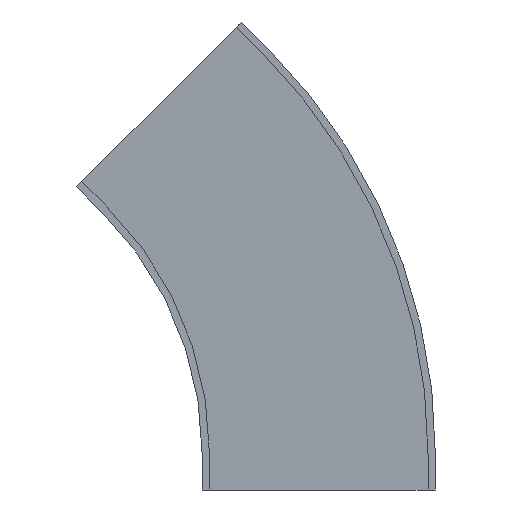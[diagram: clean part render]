
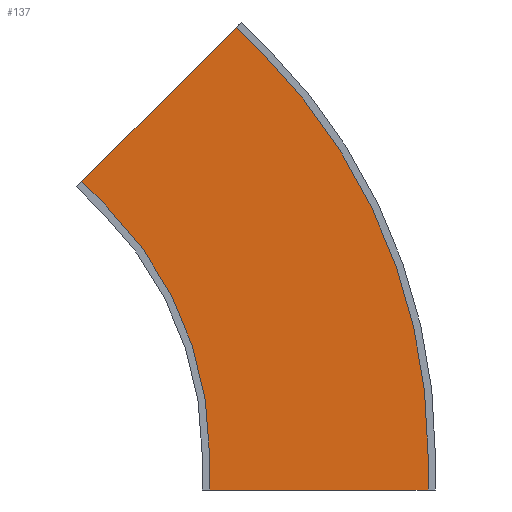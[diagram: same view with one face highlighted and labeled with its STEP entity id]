
A CAD part, front view. The second image highlights one B-rep face of the part: STEP entity #137.
In plain terms, the highlighted planar face has unit normal (0, -1, 0).
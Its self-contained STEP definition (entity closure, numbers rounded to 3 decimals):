
#22 = ORIENTED_EDGE ( 'NONE', *, *, #1498, .T. ) ;
#23 = ORIENTED_EDGE ( 'NONE', *, *, #1499, .F. ) ;
#25 = ORIENTED_EDGE ( 'NONE', *, *, #1500, .F. ) ;
#26 = ORIENTED_EDGE ( 'NONE', *, *, #1501, .F. ) ;
#44 = VERTEX_POINT ( 'NONE', #740 ) ;
#51 = VERTEX_POINT ( 'NONE', #747 ) ;
#54 = VERTEX_POINT ( 'NONE', #750 ) ;
#55 = VERTEX_POINT ( 'NONE', #751 ) ;
#56 = VERTEX_POINT ( 'NONE', #752 ) ;
#57 = VERTEX_POINT ( 'NONE', #753 ) ;
#58 = VERTEX_POINT ( 'NONE', #754 ) ;
#61 = VERTEX_POINT ( 'NONE', #757 ) ;
#137 = ADVANCED_FACE ( 'NONE', ( #1648 ), #926, .F. ) ;
#279 = DIRECTION ( 'NONE',  ( 0., 0., 1. ) ) ;
#281 = CARTESIAN_POINT ( 'NONE',  ( 1584.8, -68., -100. ) ) ;
#282 = CARTESIAN_POINT ( 'NONE',  ( 618.86, -68., 760.281 ) ) ;
#283 = CARTESIAN_POINT ( 'NONE',  ( 0., -68., -100. ) ) ;
#288 = DIRECTION ( 'NONE',  ( -1., 0., 0. ) ) ;
#289 = CARTESIAN_POINT ( 'NONE',  ( 975.2, -68., -100. ) ) ;
#291 = DIRECTION ( 'NONE',  ( 0., 0., 1. ) ) ;
#292 = DIRECTION ( 'NONE',  ( 0.707, 0., -0.707 ) ) ;
#293 = CARTESIAN_POINT ( 'NONE',  ( -70.711, -68., 70.711 ) ) ;
#294 = DIRECTION ( 'NONE',  ( 0.707, 0., 0.707 ) ) ;
#295 = CARTESIAN_POINT ( 'NONE',  ( 1049.912, -68., 1191.334 ) ) ;
#296 = DIRECTION ( 'NONE',  ( 0.707, 0., -0.707 ) ) ;
#298 = CARTESIAN_POINT ( 'NONE',  ( 0., -68., 0. ) ) ;
#299 = DIRECTION ( 'NONE',  ( 0., 1., 0. ) ) ;
#300 = DIRECTION ( 'NONE',  ( -1., 0., 0. ) ) ;
#306 = CARTESIAN_POINT ( 'NONE',  ( 0., -68., 0. ) ) ;
#307 = DIRECTION ( 'NONE',  ( 0., 1., 0. ) ) ;
#308 = DIRECTION ( 'NONE',  ( -1., 0., 0. ) ) ;
#663 = LINE ( 'NONE', #283, #669 ) ;
#665 = LINE ( 'NONE', #281, #667 ) ;
#666 = LINE ( 'NONE', #282, #673 ) ;
#667 = VECTOR ( 'NONE', #279, 1000. ) ;
#668 = LINE ( 'NONE', #289, #671 ) ;
#669 = VECTOR ( 'NONE', #288, 1000. ) ;
#670 = CIRCLE ( 'NONE', #1902, 975.2 ) ;
#671 = VECTOR ( 'NONE', #291, 1000. ) ;
#672 = LINE ( 'NONE', #293, #675 ) ;
#673 = VECTOR ( 'NONE', #292, 1000. ) ;
#674 = LINE ( 'NONE', #295, #677 ) ;
#675 = VECTOR ( 'NONE', #294, 1000. ) ;
#676 = CIRCLE ( 'NONE', #1901, 1584.8 ) ;
#677 = VECTOR ( 'NONE', #296, 1000. ) ;
#740 = CARTESIAN_POINT ( 'NONE',  ( 1584.8, -68., 0. ) ) ;
#747 = CARTESIAN_POINT ( 'NONE',  ( 689.571, -68., 689.571 ) ) ;
#750 = CARTESIAN_POINT ( 'NONE',  ( 975.2, -68., 0. ) ) ;
#751 = CARTESIAN_POINT ( 'NONE',  ( 975.2, -68., -100. ) ) ;
#752 = CARTESIAN_POINT ( 'NONE',  ( 1049.912, -68., 1191.334 ) ) ;
#753 = CARTESIAN_POINT ( 'NONE',  ( 1120.623, -68., 1120.623 ) ) ;
#754 = CARTESIAN_POINT ( 'NONE',  ( 618.86, -68., 760.281 ) ) ;
#757 = CARTESIAN_POINT ( 'NONE',  ( 1584.8, -68., -100. ) ) ;
#926 = PLANE ( 'NONE',  #1853 ) ;
#927 = CARTESIAN_POINT ( 'NONE',  ( 689.571, -68., 689.571 ) ) ;
#932 = DIRECTION ( 'NONE',  ( 0., 1., 0. ) ) ;
#933 = DIRECTION ( 'NONE',  ( -1., 0., 0. ) ) ;
#1192 = ORIENTED_EDGE ( 'NONE', *, *, #1497, .F. ) ;
#1193 = ORIENTED_EDGE ( 'NONE', *, *, #1496, .F. ) ;
#1194 = ORIENTED_EDGE ( 'NONE', *, *, #1495, .T. ) ;
#1495 = EDGE_CURVE ( 'NONE', #61, #44, #665, .T. ) ;
#1496 = EDGE_CURVE ( 'NONE', #61, #55, #663, .T. ) ;
#1497 = EDGE_CURVE ( 'NONE', #55, #54, #668, .T. ) ;
#1498 = EDGE_CURVE ( 'NONE', #58, #51, #666, .T. ) ;
#1499 = EDGE_CURVE ( 'NONE', #58, #56, #672, .T. ) ;
#1500 = EDGE_CURVE ( 'NONE', #56, #57, #674, .T. ) ;
#1501 = EDGE_CURVE ( 'NONE', #57, #44, #676, .T. ) ;
#1504 = EDGE_CURVE ( 'NONE', #51, #54, #670, .T. ) ;
#1540 = EDGE_LOOP ( 'NONE', ( #26, #25, #23, #22, #1926, #1192, #1193, #1194 ) ) ;
#1648 = FACE_OUTER_BOUND ( 'NONE', #1540, .T. ) ;
#1853 = AXIS2_PLACEMENT_3D ( 'NONE', #927, #932, #933 ) ;
#1901 = AXIS2_PLACEMENT_3D ( 'NONE', #298, #299, #300 ) ;
#1902 = AXIS2_PLACEMENT_3D ( 'NONE', #306, #307, #308 ) ;
#1926 = ORIENTED_EDGE ( 'NONE', *, *, #1504, .T. ) ;
